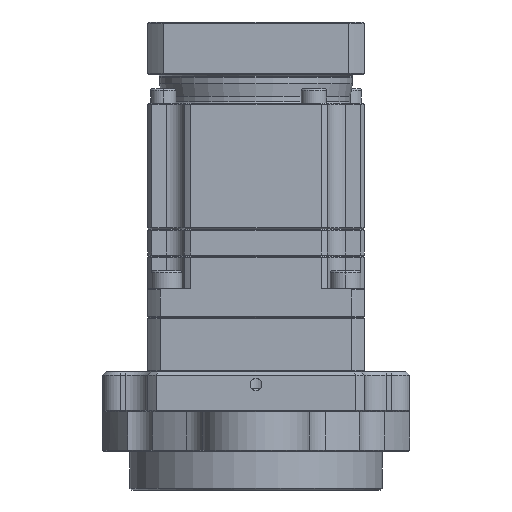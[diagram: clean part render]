
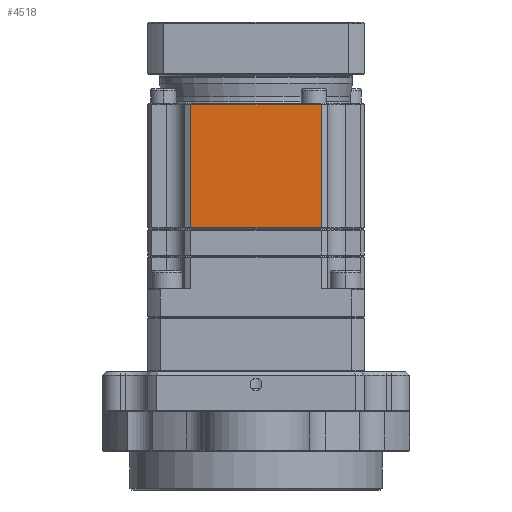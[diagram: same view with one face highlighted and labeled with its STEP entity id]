
A CAD part, front view. The second image highlights one B-rep face of the part: STEP entity #4518.
In plain terms, the highlighted planar face has unit normal (0, -1, 0).
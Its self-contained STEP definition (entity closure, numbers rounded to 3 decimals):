
#1260 = LINE ( 'NONE', #1685, #1267 ) ;
#1267 = VECTOR ( 'NONE', #1674, 1000. ) ;
#1271 = LINE ( 'NONE', #1675, #1353 ) ;
#1301 = LINE ( 'NONE', #7558, #1351 ) ;
#1326 = LINE ( 'NONE', #7588, #1334 ) ;
#1334 = VECTOR ( 'NONE', #7604, 1000. ) ;
#1351 = VECTOR ( 'NONE', #7577, 1000. ) ;
#1353 = VECTOR ( 'NONE', #1702, 1000. ) ;
#1674 = DIRECTION ( 'NONE',  ( 0., 0., 1. ) ) ;
#1675 = CARTESIAN_POINT ( 'NONE',  ( -18.028, -74., 39.5 ) ) ;
#1685 = CARTESIAN_POINT ( 'NONE',  ( 18.028, -74., 39.5 ) ) ;
#1702 = DIRECTION ( 'NONE',  ( 0., 0., -1. ) ) ;
#4518 = ADVANCED_FACE ( 'NONE', ( #29696 ), #31167, .T. ) ;
#6476 = CARTESIAN_POINT ( 'NONE',  ( 18.028, -74., 74. ) ) ;
#6512 = CARTESIAN_POINT ( 'NONE',  ( -18.028, -74., 74. ) ) ;
#6513 = CARTESIAN_POINT ( 'NONE',  ( 18.028, -74., 39.8 ) ) ;
#7558 = CARTESIAN_POINT ( 'NONE',  ( 17.438, -74., 39.8 ) ) ;
#7577 = DIRECTION ( 'NONE',  ( 1., 0., 0. ) ) ;
#7588 = CARTESIAN_POINT ( 'NONE',  ( -17.438, -74., 74. ) ) ;
#7604 = DIRECTION ( 'NONE',  ( -1., 0., 0. ) ) ;
#8226 = CARTESIAN_POINT ( 'NONE',  ( -18.028, -74., 39.8 ) ) ;
#16715 = EDGE_CURVE ( 'NONE', #32271, #32274, #1260, .T. ) ;
#16716 = EDGE_CURVE ( 'NONE', #32296, #34933, #1271, .T. ) ;
#16736 = EDGE_CURVE ( 'NONE', #34933, #32271, #1301, .T. ) ;
#16764 = EDGE_CURVE ( 'NONE', #32274, #32296, #1326, .T. ) ;
#17928 = ORIENTED_EDGE ( 'NONE', *, *, #16764, .T. ) ;
#17994 = ORIENTED_EDGE ( 'NONE', *, *, #16716, .T. ) ;
#18031 = ORIENTED_EDGE ( 'NONE', *, *, #16715, .T. ) ;
#18051 = ORIENTED_EDGE ( 'NONE', *, *, #16736, .T. ) ;
#20525 = EDGE_LOOP ( 'NONE', ( #17994, #18051, #18031, #17928 ) ) ;
#29696 = FACE_OUTER_BOUND ( 'NONE', #20525, .T. ) ;
#31141 = DIRECTION ( 'NONE',  ( 0., -1., 0. ) ) ;
#31167 = PLANE ( 'NONE',  #31703 ) ;
#31170 = CARTESIAN_POINT ( 'NONE',  ( -19.749, -74., -5.7 ) ) ;
#31171 = DIRECTION ( 'NONE',  ( 1., 0., 0. ) ) ;
#31703 = AXIS2_PLACEMENT_3D ( 'NONE', #31170, #31141, #31171 ) ;
#32271 = VERTEX_POINT ( 'NONE', #6513 ) ;
#32274 = VERTEX_POINT ( 'NONE', #6476 ) ;
#32296 = VERTEX_POINT ( 'NONE', #6512 ) ;
#34933 = VERTEX_POINT ( 'NONE', #8226 ) ;
